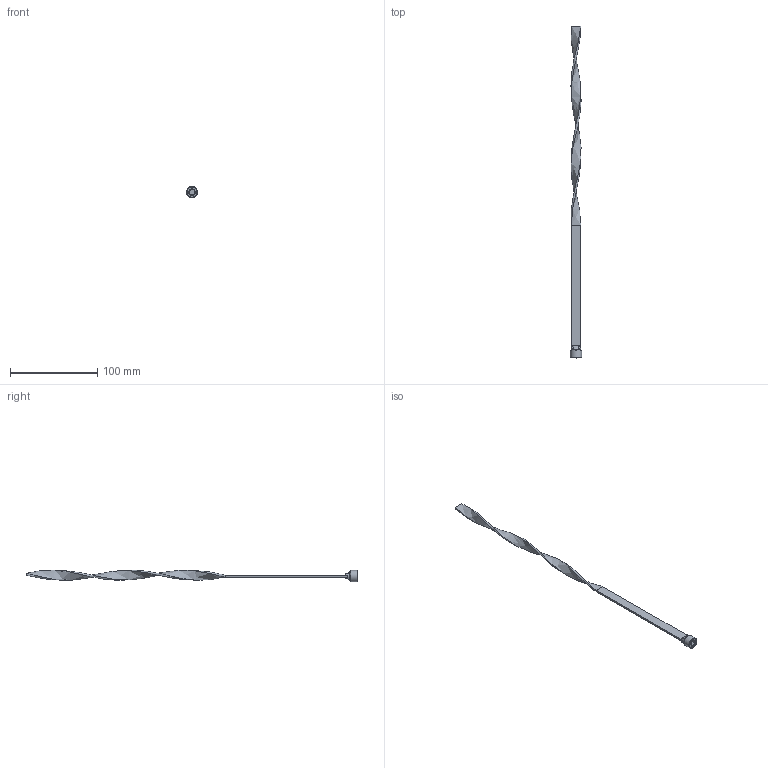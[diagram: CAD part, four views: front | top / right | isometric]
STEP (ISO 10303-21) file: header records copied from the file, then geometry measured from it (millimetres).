
FILE_DESCRIPTION(/* description */ (''),/* implementation_level */ '2;1');
FILE_NAME(/* name */ 'C:/Users/drich/Desktop/TB14X15BSP v1.step',/* time_stamp */ '2020-01-14T09:25:00-06:00',/* author */ (''),/* organization */ (''),/* preprocessor_version */ 'ST-DEVELOPER v18',/* originating_system */ 'Autodesk Translation Framework v8.12.0.6',/* authorisation */ '');
FILE_SCHEMA (('AUTOMOTIVE_DESIGN { 1 0 10303 214 3 1 1 }'));
Length unit declared in the file: inch
Products named in the file (1): TB14X15BSP
Bounding box: 13.03 x 381 x 13.41 mm (x, y, z)
Volume: 9933.8 mm3; surface area: 10515.8 mm2
Topology: 2 solids, 2 shells, 45 faces, 115 edges, 75 vertices
Faces by surface type: plane 21, bspline 10, cylinder 6, torus 5, cone 3
Full cylindrical faces by diameter (mm): 10.82 x1, 13.032 x1
Entity records: 2075 total; most frequent: CARTESIAN_POINT 993, ORIENTED_EDGE 230, DIRECTION 199, EDGE_CURVE 115, AXIS2_PLACEMENT_3D 76, VERTEX_POINT 75, LINE 47, VECTOR 47
